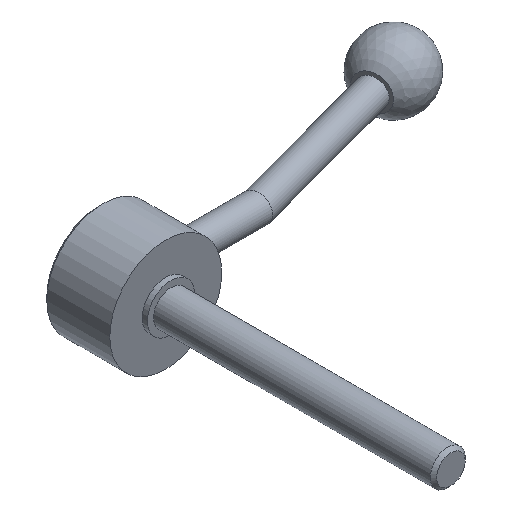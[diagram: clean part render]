
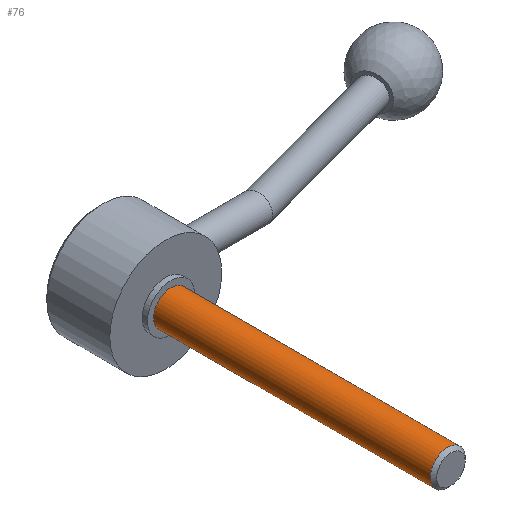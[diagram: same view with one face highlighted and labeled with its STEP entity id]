
A CAD part, isometric view. The second image highlights one B-rep face of the part: STEP entity #76.
In plain terms, the highlighted cylindrical face has radius 5 mm (diameter 10 mm), a full revolution.
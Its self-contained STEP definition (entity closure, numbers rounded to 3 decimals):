
#76 = ADVANCED_FACE( '', ( #94, #95 ), #96, .T. );
#94 = FACE_OUTER_BOUND( '', #138, .T. );
#95 = FACE_OUTER_BOUND( '', #139, .T. );
#96 = CYLINDRICAL_SURFACE( '', #140, 5. );
#138 = EDGE_LOOP( '', ( #184 ) );
#139 = EDGE_LOOP( '', ( #185 ) );
#140 = AXIS2_PLACEMENT_3D( '', #186, #187, #188 );
#184 = ORIENTED_EDGE( '', *, *, #254, .F. );
#185 = ORIENTED_EDGE( '', *, *, #255, .T. );
#186 = CARTESIAN_POINT( '', ( 0., -80., 0. ) );
#187 = DIRECTION( '', ( 0., 1., 0. ) );
#188 = DIRECTION( '', ( 0., 0., -1. ) );
#254 = EDGE_CURVE( '', #270, #270, #271, .T. );
#255 = EDGE_CURVE( '', #272, #272, #273, .T. );
#270 = VERTEX_POINT( '', #298 );
#271 = CIRCLE( '', #299, 5. );
#272 = VERTEX_POINT( '', #300 );
#273 = CIRCLE( '', #301, 5. );
#298 = CARTESIAN_POINT( '', ( 0., -79.08, -5. ) );
#299 = AXIS2_PLACEMENT_3D( '', #392, #393, #394 );
#300 = CARTESIAN_POINT( '', ( 0., 0., -5. ) );
#301 = AXIS2_PLACEMENT_3D( '', #395, #396, #397 );
#392 = CARTESIAN_POINT( '', ( 0., -79.08, 0. ) );
#393 = DIRECTION( '', ( 0., -1., 0. ) );
#394 = DIRECTION( '', ( 0., 0., -1. ) );
#395 = CARTESIAN_POINT( '', ( 0., 0., 0. ) );
#396 = DIRECTION( '', ( 0., -1., 0. ) );
#397 = DIRECTION( '', ( 0., 0., -1. ) );
